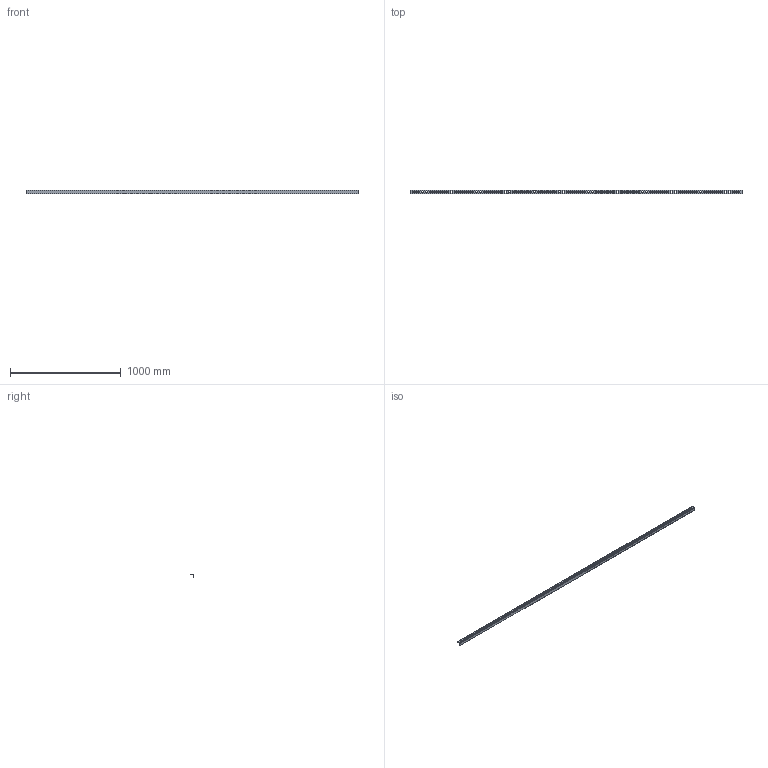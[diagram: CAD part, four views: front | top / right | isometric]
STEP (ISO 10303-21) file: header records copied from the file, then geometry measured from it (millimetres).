
FILE_DESCRIPTION (( 'STEP AP203' ), '1' );
FILE_NAME ('EF3000.STEP', '2024-09-09T20:50:56', ( '' ), ( '' ), 'SwSTEP 2.0', 'SolidWorks 2023', '' );
FILE_SCHEMA (( 'CONFIG_CONTROL_DESIGN' ));
Length unit declared in the file: millimetre
Products named in the file (1): EF3000
Bounding box: 3000 x 30 x 30 mm (x, y, z)
Volume: 379110.7 mm3; surface area: 312052 mm2
Topology: 1 solids, 1 shells, 406 faces, 1212 edges, 808 vertices
Faces by surface type: cylinder 240, plane 166
Entity records: 14229 total; most frequent: DIRECTION 2506, CARTESIAN_POINT 2427, ORIENTED_EDGE 2424, EDGE_CURVE 1212, AXIS2_PLACEMENT_3D 887, VERTEX_POINT 808, LINE 732, VECTOR 732
